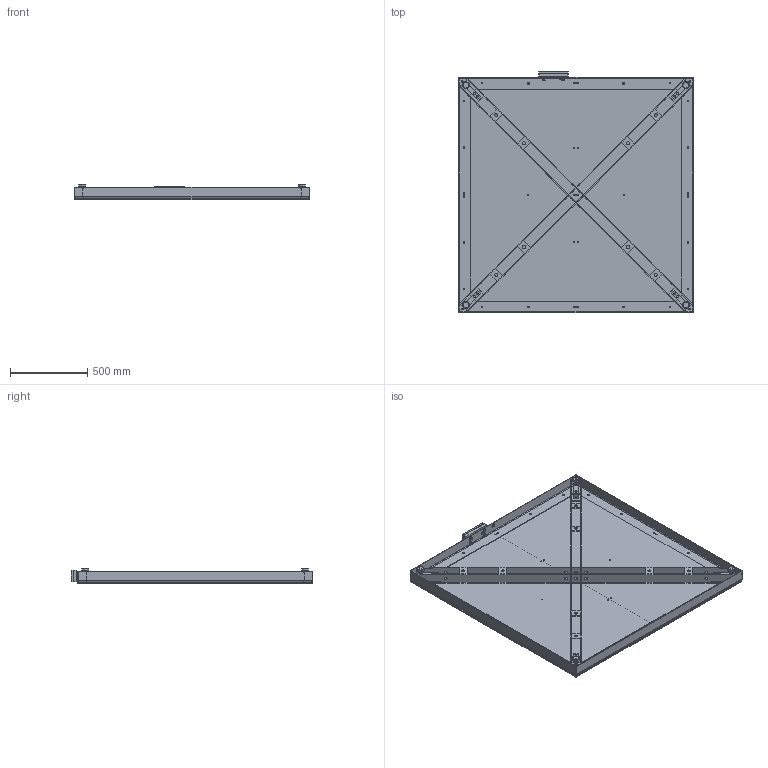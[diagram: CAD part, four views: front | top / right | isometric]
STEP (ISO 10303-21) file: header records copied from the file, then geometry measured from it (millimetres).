
FILE_DESCRIPTION (( 'STEP AP203' ), '1' );
FILE_NAME ('4040-60.STEP', '2022-01-07T17:53:56', ( '' ), ( '' ), 'SwSTEP 2.0', 'SolidWorks 2019', '' );
FILE_SCHEMA (( 'CONFIG_CONTROL_DESIGN' ));
Length unit declared in the file: inch
Products named in the file (1): 4040-60
Bounding box: 1524 x 1563.88 x 101.6 mm (x, y, z)
Surface area: 11971495.2 mm2 (no closed solid volume)
Topology: 0 solids, 93 shells, 575 faces, 2524 edges, 1977 vertices
Faces by surface type: plane 352, cylinder 177, cone 42, bspline 4
Full cylindrical faces by diameter (mm): 5.105 x8, 6.096 x2, 6.731 x2, 6.756 x26, 7.493 x20, 7.541 x12, 7.938 x4, 12.268 x1, 12.667 x4, 13.335 x8, 15.85 x1, 15.875 x4, 19.05 x25, 19.304 x8, 22.86 x1, 37.973 x4, 44.45 x4
Entity records: 28086 total; most frequent: CARTESIAN_POINT 8572, DIRECTION 3811, ORIENTED_EDGE 3141, EDGE_CURVE 2290, VERTEX_POINT 1914, LINE 1527, VECTOR 1527, AXIS2_PLACEMENT_3D 1142
